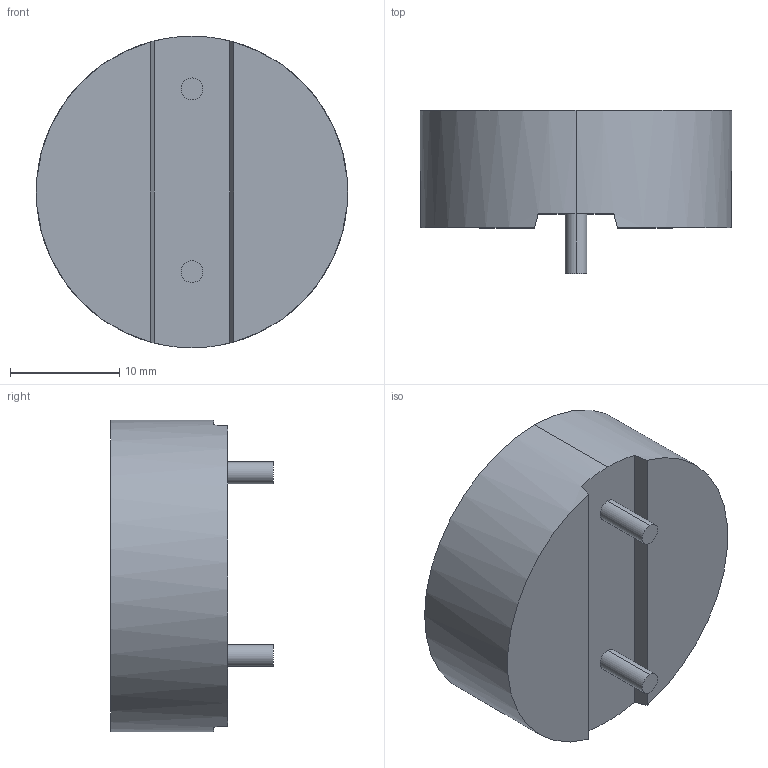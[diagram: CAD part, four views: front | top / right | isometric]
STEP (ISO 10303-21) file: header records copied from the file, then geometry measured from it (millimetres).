
FILE_DESCRIPTION (( 'STEP AP214' ), '1' );
FILE_NAME ('IHTH-1125KZ-5A 3.3uH.STEP', '2025-03-14T18:56:07', ( '' ), ( '' ), 'SwSTEP 2.0', 'SolidWorks 2024', '' );
FILE_SCHEMA (( 'AUTOMOTIVE_DESIGN' ));
Length unit declared in the file: inch
Products named in the file (1): IHTH-1125KZ-5A 3.3uH
Bounding box: 28.57 x 14.94 x 28.57 mm (x, y, z)
Volume: 6663.2 mm3; surface area: 2354.7 mm2
Topology: 1 solids, 1 shells, 205 faces, 540 edges, 360 vertices
Faces by surface type: plane 126, bspline 69, cylinder 10
Entity records: 10095 total; most frequent: CARTESIAN_POINT 5451, ORIENTED_EDGE 1080, DIRECTION 696, EDGE_CURVE 540, LINE 374, VECTOR 374, VERTEX_POINT 360, EDGE_LOOP 228
